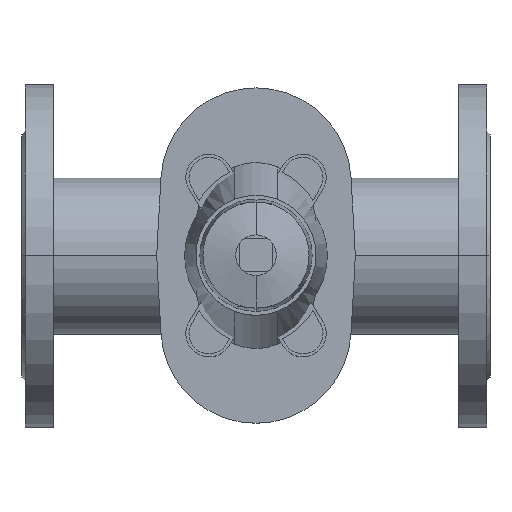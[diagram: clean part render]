
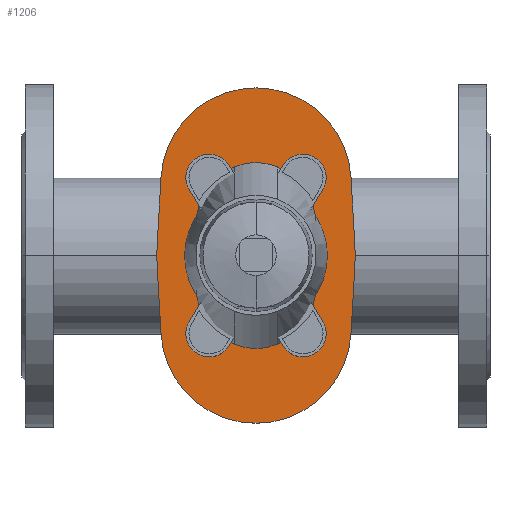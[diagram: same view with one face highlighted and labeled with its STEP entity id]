
A CAD part, top view. The second image highlights one B-rep face of the part: STEP entity #1206.
In plain terms, the highlighted planar face has unit normal (0, 0, 1).
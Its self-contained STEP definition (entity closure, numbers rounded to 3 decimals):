
#1206=ADVANCED_FACE('',(#2488),#2489,.T.);
#2488=FACE_OUTER_BOUND('',#4251,.T.);
#2489=PLANE('',#4252);
#4251=EDGE_LOOP('',(#6614,#6615,#6616,#6617,#6618,#6619,#6620,#6621,#6622,#6623));
#4252=AXIS2_PLACEMENT_3D('',#6624,#6625,#6626);
#6614=ORIENTED_EDGE('',*,*,#10117,.F.);
#6615=ORIENTED_EDGE('',*,*,#10118,.F.);
#6616=ORIENTED_EDGE('',*,*,#10119,.F.);
#6617=ORIENTED_EDGE('',*,*,#9637,.F.);
#6618=ORIENTED_EDGE('',*,*,#10120,.F.);
#6619=ORIENTED_EDGE('',*,*,#10121,.F.);
#6620=ORIENTED_EDGE('',*,*,#10122,.F.);
#6621=ORIENTED_EDGE('',*,*,#9947,.F.);
#6622=ORIENTED_EDGE('',*,*,#10123,.F.);
#6623=ORIENTED_EDGE('',*,*,#10124,.F.);
#6624=CARTESIAN_POINT('',(150.,0.006,158.0));
#6625=DIRECTION('',(0.0,0.0,1.0));
#6626=DIRECTION('',(1.0,0.0,0.0));
#9637=EDGE_CURVE('',#11314,#11309,#11316,.T.);
#9947=EDGE_CURVE('',#11828,#11830,#11831,.T.);
#10117=EDGE_CURVE('',#12099,#12100,#12101,.T.);
#10118=EDGE_CURVE('',#12102,#12099,#12103,.T.);
#10119=EDGE_CURVE('',#11309,#12102,#12104,.T.);
#10120=EDGE_CURVE('',#12105,#11314,#12106,.T.);
#10121=EDGE_CURVE('',#12107,#12105,#12108,.T.);
#10122=EDGE_CURVE('',#11830,#12107,#12109,.T.);
#10123=EDGE_CURVE('',#12110,#11828,#12111,.T.);
#10124=EDGE_CURVE('',#12100,#12110,#12112,.T.);
#11309=VERTEX_POINT('',#13641);
#11314=VERTEX_POINT('',#13647);
#11316=CIRCLE('',#13650,167.639);
#11828=VERTEX_POINT('',#14304);
#11830=VERTEX_POINT('',#14307);
#11831=CIRCLE('',#14308,167.639);
#12099=VERTEX_POINT('',#14662);
#12100=VERTEX_POINT('',#14663);
#12101=CIRCLE('',#14664,60.99);
#12102=VERTEX_POINT('',#14665);
#12103=LINE('',#14666,#14667);
#12104=CIRCLE('',#14668,167.639);
#12105=VERTEX_POINT('',#14669);
#12106=LINE('',#14670,#14671);
#12107=VERTEX_POINT('',#14672);
#12108=CIRCLE('',#14673,61.);
#12109=LINE('',#14674,#14675);
#12110=VERTEX_POINT('',#14676);
#12111=CIRCLE('',#14677,167.639);
#12112=LINE('',#14678,#14679);
#13641=CARTESIAN_POINT('',(213.5,0.,158.0));
#13647=CARTESIAN_POINT('',(213.223,9.633,158.0));
#13650=AXIS2_PLACEMENT_3D('',#16472,#16473,#16474);
#14304=CARTESIAN_POINT('',(86.5,0.,158.0));
#14307=CARTESIAN_POINT('',(86.777,9.633,158.0));
#14308=AXIS2_PLACEMENT_3D('',#16909,#16910,#16911);
#14662=CARTESIAN_POINT('',(210.888,-50.02,158.0));
#14663=CARTESIAN_POINT('',(89.112,-50.02,158.0));
#14664=AXIS2_PLACEMENT_3D('',#17121,#17122,#17123);
#14665=CARTESIAN_POINT('',(213.221,-9.674,158.0));
#14666=CARTESIAN_POINT('',(213.221,-9.674,158.0));
#14667=VECTOR('',#17124,1.0);
#14668=AXIS2_PLACEMENT_3D('',#17125,#17126,#17127);
#14669=CARTESIAN_POINT('',(210.899,50.005,158.0));
#14670=CARTESIAN_POINT('',(210.899,50.005,158.0));
#14671=VECTOR('',#17128,1.0);
#14672=CARTESIAN_POINT('',(89.101,50.005,158.0));
#14673=AXIS2_PLACEMENT_3D('',#17129,#17130,#17131);
#14674=CARTESIAN_POINT('',(86.777,9.633,158.0));
#14675=VECTOR('',#17132,1.0);
#14676=CARTESIAN_POINT('',(86.779,-9.675,158.0));
#14677=AXIS2_PLACEMENT_3D('',#17133,#17134,#17135);
#14678=CARTESIAN_POINT('',(89.112,-50.02,158.0));
#14679=VECTOR('',#17136,1.0);
#16472=CARTESIAN_POINT('',(45.861,0.,158.0));
#16473=DIRECTION('',(0.0,0.0,-1.0));
#16474=DIRECTION('',(-1.0,0.0,0.0));
#16909=CARTESIAN_POINT('',(254.139,0.,158.0));
#16910=DIRECTION('',(0.0,0.0,-1.0));
#16911=DIRECTION('',(-1.0,0.0,0.0));
#17121=CARTESIAN_POINT('',(150.,-46.5,158.0));
#17122=DIRECTION('',(0.0,0.0,-1.0));
#17123=DIRECTION('',(-1.0,0.0,0.0));
#17124=DIRECTION('',(-0.058,-0.998,0.0));
#17125=CARTESIAN_POINT('',(45.861,0.,158.0));
#17126=DIRECTION('',(0.0,0.0,-1.0));
#17127=DIRECTION('',(-1.0,0.0,0.0));
#17128=DIRECTION('',(0.057,-0.998,0.0));
#17129=CARTESIAN_POINT('',(150.0,46.5,158.0));
#17130=DIRECTION('',(0.0,0.0,-1.0));
#17131=DIRECTION('',(-1.0,0.0,0.0));
#17132=DIRECTION('',(0.057,0.998,0.0));
#17133=CARTESIAN_POINT('',(254.139,0.,158.0));
#17134=DIRECTION('',(0.0,0.0,-1.0));
#17135=DIRECTION('',(-1.0,0.0,0.0));
#17136=DIRECTION('',(-0.058,0.998,0.0));
